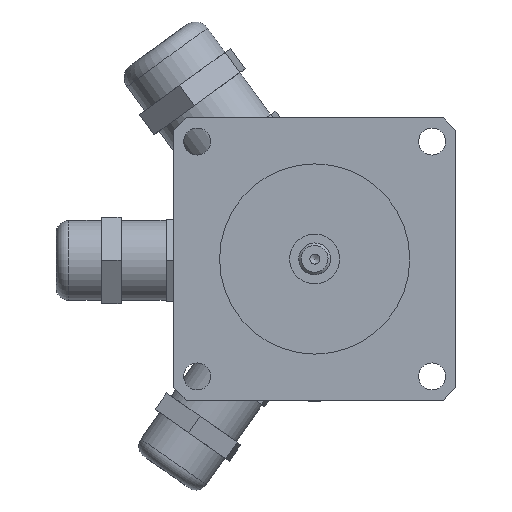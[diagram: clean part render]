
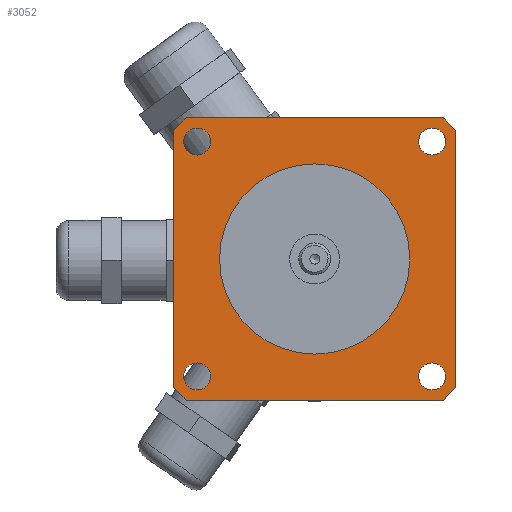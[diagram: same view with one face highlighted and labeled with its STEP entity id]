
A CAD part, top view. The second image highlights one B-rep face of the part: STEP entity #3052.
In plain terms, the highlighted planar face has unit normal (0, 0, 1).
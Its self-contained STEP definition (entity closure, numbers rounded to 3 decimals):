
#2684=CARTESIAN_POINT('',(19.05,0.,42.7));
#2685=VERTEX_POINT('',#2684);
#2686=CARTESIAN_POINT('',(0.,0.,42.7));
#2687=DIRECTION('',(0.0,0.0,-1.0));
#2688=DIRECTION('',(-1.0,0.0,0.0));
#2689=AXIS2_PLACEMENT_3D('',#2686,#2687,#2688);
#2690=CIRCLE('',#2689,19.05);
#2691=EDGE_CURVE('',#2685,#2685,#2690,.T.);
#2734=CARTESIAN_POINT('',(26.211,23.511,42.7));
#2735=VERTEX_POINT('',#2734);
#2736=CARTESIAN_POINT('',(23.511,23.511,42.7));
#2737=DIRECTION('',(0.0,0.0,-1.0));
#2738=DIRECTION('',(-1.0,0.0,0.0));
#2739=AXIS2_PLACEMENT_3D('',#2736,#2737,#2738);
#2740=CIRCLE('',#2739,2.7);
#2741=EDGE_CURVE('',#2735,#2735,#2740,.T.);
#2754=CARTESIAN_POINT('',(26.211,-23.511,42.7));
#2755=VERTEX_POINT('',#2754);
#2756=CARTESIAN_POINT('',(23.511,-23.511,42.7));
#2757=DIRECTION('',(0.0,0.0,-1.0));
#2758=DIRECTION('',(-1.0,0.0,0.0));
#2759=AXIS2_PLACEMENT_3D('',#2756,#2757,#2758);
#2760=CIRCLE('',#2759,2.7);
#2761=EDGE_CURVE('',#2755,#2755,#2760,.T.);
#2774=CARTESIAN_POINT('',(-20.811,23.511,42.7));
#2775=VERTEX_POINT('',#2774);
#2776=CARTESIAN_POINT('',(-23.511,23.511,42.7));
#2777=DIRECTION('',(0.0,0.0,-1.0));
#2778=DIRECTION('',(-1.0,0.0,0.0));
#2779=AXIS2_PLACEMENT_3D('',#2776,#2777,#2778);
#2780=CIRCLE('',#2779,2.7);
#2781=EDGE_CURVE('',#2775,#2775,#2780,.T.);
#2794=CARTESIAN_POINT('',(-20.811,-23.511,42.7));
#2795=VERTEX_POINT('',#2794);
#2796=CARTESIAN_POINT('',(-23.511,-23.511,42.7));
#2797=DIRECTION('',(0.0,0.0,-1.0));
#2798=DIRECTION('',(-1.0,0.0,0.0));
#2799=AXIS2_PLACEMENT_3D('',#2796,#2797,#2798);
#2800=CIRCLE('',#2799,2.7);
#2801=EDGE_CURVE('',#2795,#2795,#2800,.T.);
#2814=CARTESIAN_POINT('',(25.75,28.25,42.7));
#2815=VERTEX_POINT('',#2814);
#2816=CARTESIAN_POINT('',(28.25,25.75,42.7));
#2817=VERTEX_POINT('',#2816);
#2818=CARTESIAN_POINT('',(25.75,28.25,42.7));
#2819=DIRECTION('',(0.707,-0.707,0.0));
#2820=VECTOR('',#2819,3.536);
#2821=LINE('',#2818,#2820);
#2822=EDGE_CURVE('',#2815,#2817,#2821,.T.);
#2845=CARTESIAN_POINT('',(28.25,-25.75,42.7));
#2846=VERTEX_POINT('',#2845);
#2847=CARTESIAN_POINT('',(28.25,25.75,42.7));
#2848=DIRECTION('',(0.0,-1.0,0.0));
#2849=VECTOR('',#2848,51.5);
#2850=LINE('',#2847,#2849);
#2851=EDGE_CURVE('',#2817,#2846,#2850,.T.);
#2872=CARTESIAN_POINT('',(25.75,-28.25,42.7));
#2873=VERTEX_POINT('',#2872);
#2874=CARTESIAN_POINT('',(28.25,-25.75,42.7));
#2875=DIRECTION('',(-0.707,-0.707,0.0));
#2876=VECTOR('',#2875,3.536);
#2877=LINE('',#2874,#2876);
#2878=EDGE_CURVE('',#2846,#2873,#2877,.T.);
#2896=CARTESIAN_POINT('',(-25.75,-28.25,42.7));
#2897=VERTEX_POINT('',#2896);
#2898=CARTESIAN_POINT('',(25.75,-28.25,42.7));
#2899=DIRECTION('',(-1.0,0.0,0.0));
#2900=VECTOR('',#2899,51.5);
#2901=LINE('',#2898,#2900);
#2902=EDGE_CURVE('',#2873,#2897,#2901,.T.);
#2922=CARTESIAN_POINT('',(-28.25,-25.75,42.7));
#2923=VERTEX_POINT('',#2922);
#2924=CARTESIAN_POINT('',(-25.75,-28.25,42.7));
#2925=DIRECTION('',(-0.707,0.707,0.0));
#2926=VECTOR('',#2925,3.536);
#2927=LINE('',#2924,#2926);
#2928=EDGE_CURVE('',#2897,#2923,#2927,.T.);
#2946=CARTESIAN_POINT('',(-28.25,25.75,42.7));
#2947=VERTEX_POINT('',#2946);
#2948=CARTESIAN_POINT('',(-28.25,-25.75,42.7));
#2949=DIRECTION('',(0.0,1.0,0.0));
#2950=VECTOR('',#2949,51.5);
#2951=LINE('',#2948,#2950);
#2952=EDGE_CURVE('',#2923,#2947,#2951,.T.);
#2972=CARTESIAN_POINT('',(-25.75,28.25,42.7));
#2973=VERTEX_POINT('',#2972);
#2974=CARTESIAN_POINT('',(-28.25,25.75,42.7));
#2975=DIRECTION('',(0.707,0.707,0.0));
#2976=VECTOR('',#2975,3.536);
#2977=LINE('',#2974,#2976);
#2978=EDGE_CURVE('',#2947,#2973,#2977,.T.);
#2996=CARTESIAN_POINT('',(-25.75,28.25,42.7));
#2997=DIRECTION('',(1.0,0.0,0.0));
#2998=VECTOR('',#2997,51.5);
#2999=LINE('',#2996,#2998);
#3000=EDGE_CURVE('',#2973,#2815,#2999,.T.);
#3022=CARTESIAN_POINT('',(0.,0.,42.7));
#3023=DIRECTION('',(0.0,0.0,1.0));
#3024=DIRECTION('',(1.0,0.0,0.0));
#3025=AXIS2_PLACEMENT_3D('',#3022,#3023,#3024);
#3026=PLANE('',#3025);
#3027=ORIENTED_EDGE('',*,*,#2822,.F.);
#3028=ORIENTED_EDGE('',*,*,#3000,.F.);
#3029=ORIENTED_EDGE('',*,*,#2978,.F.);
#3030=ORIENTED_EDGE('',*,*,#2952,.F.);
#3031=ORIENTED_EDGE('',*,*,#2928,.F.);
#3032=ORIENTED_EDGE('',*,*,#2902,.F.);
#3033=ORIENTED_EDGE('',*,*,#2878,.F.);
#3034=ORIENTED_EDGE('',*,*,#2851,.F.);
#3035=EDGE_LOOP('',(#3027,#3028,#3029,#3030,#3031,#3032,#3033,#3034));
#3036=FACE_OUTER_BOUND('',#3035,.T.);
#3037=ORIENTED_EDGE('',*,*,#2691,.T.);
#3038=EDGE_LOOP('',(#3037));
#3039=FACE_BOUND('',#3038,.T.);
#3040=ORIENTED_EDGE('',*,*,#2741,.T.);
#3041=EDGE_LOOP('',(#3040));
#3042=FACE_BOUND('',#3041,.T.);
#3043=ORIENTED_EDGE('',*,*,#2761,.T.);
#3044=EDGE_LOOP('',(#3043));
#3045=FACE_BOUND('',#3044,.T.);
#3046=ORIENTED_EDGE('',*,*,#2781,.T.);
#3047=EDGE_LOOP('',(#3046));
#3048=FACE_BOUND('',#3047,.T.);
#3049=ORIENTED_EDGE('',*,*,#2801,.T.);
#3050=EDGE_LOOP('',(#3049));
#3051=FACE_BOUND('',#3050,.T.);
#3052=ADVANCED_FACE('',(#3036,#3039,#3042,#3045,#3048,#3051),#3026,.T.);
